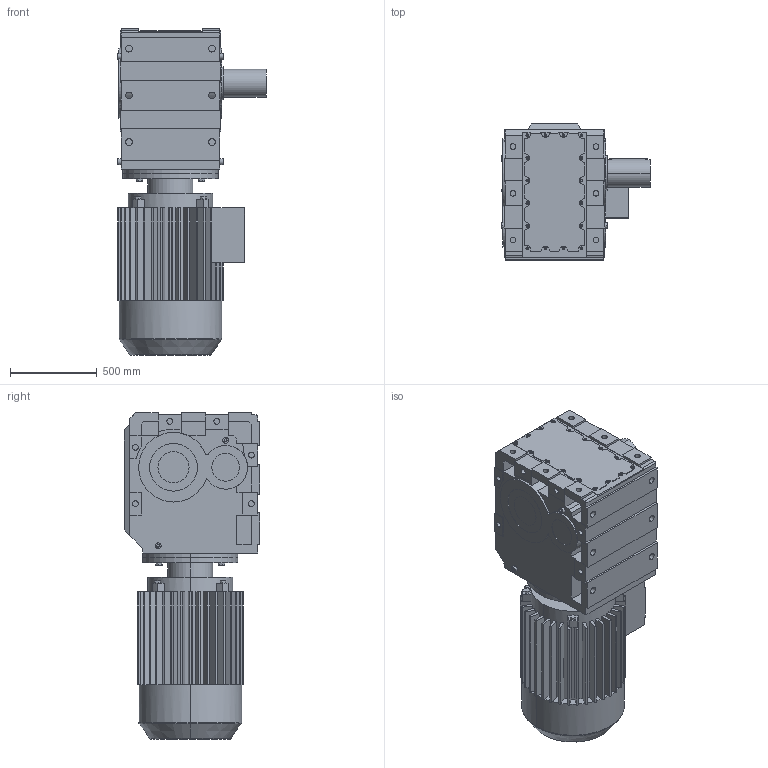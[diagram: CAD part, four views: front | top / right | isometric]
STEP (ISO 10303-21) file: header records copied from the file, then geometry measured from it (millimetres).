
FILE_DESCRIPTION(('Open CASCADE Model'),'2;1');
FILE_NAME('Open CASCADE Shape Model','2021-05-11T13:46:00',('Author'),( 'Open CASCADE'),'Open CASCADE STEP processor 6.3','Open CASCADE 6.3' ,'Unknown');
FILE_SCHEMA(('AUTOMOTIVE_DESIGN_CC2 { 1 2 10303 214 -1 1 5 4 }'));
Length unit declared in the file: millimetre
Products named in the file (4): 1_K167DV315M-A; K167‵187_167.step; 萇儂_550-DV315M-1050-1261-612-430.step; す瑩妗陑粣K_167.step
Assembly tree (3 placements, depth 2):
  1_K167DV315M-A
    K167‵187_167.step
    萇儂_550-DV315M-1050-1261-612-430.step
    す瑩妗陑粣K_167.step
Bounding box: 860.99 x 786 x 1887 mm (x, y, z)
Volume: 594590920 mm3; surface area: 9386414.4 mm2
Topology: 3 solids, 3 shells, 917 faces, 2376 edges, 1546 vertices
Faces by surface type: plane 617, cylinder 288, cone 8, torus 4
Entity records: 59552 total; most frequent: CARTESIAN_POINT 14038, DIRECTION 7944, ORIENTED_EDGE 4748, PCURVE 4748, DEFINITIONAL_REPRESENTATION 4748, LINE 4231, VECTOR 4231, EDGE_CURVE 2374
